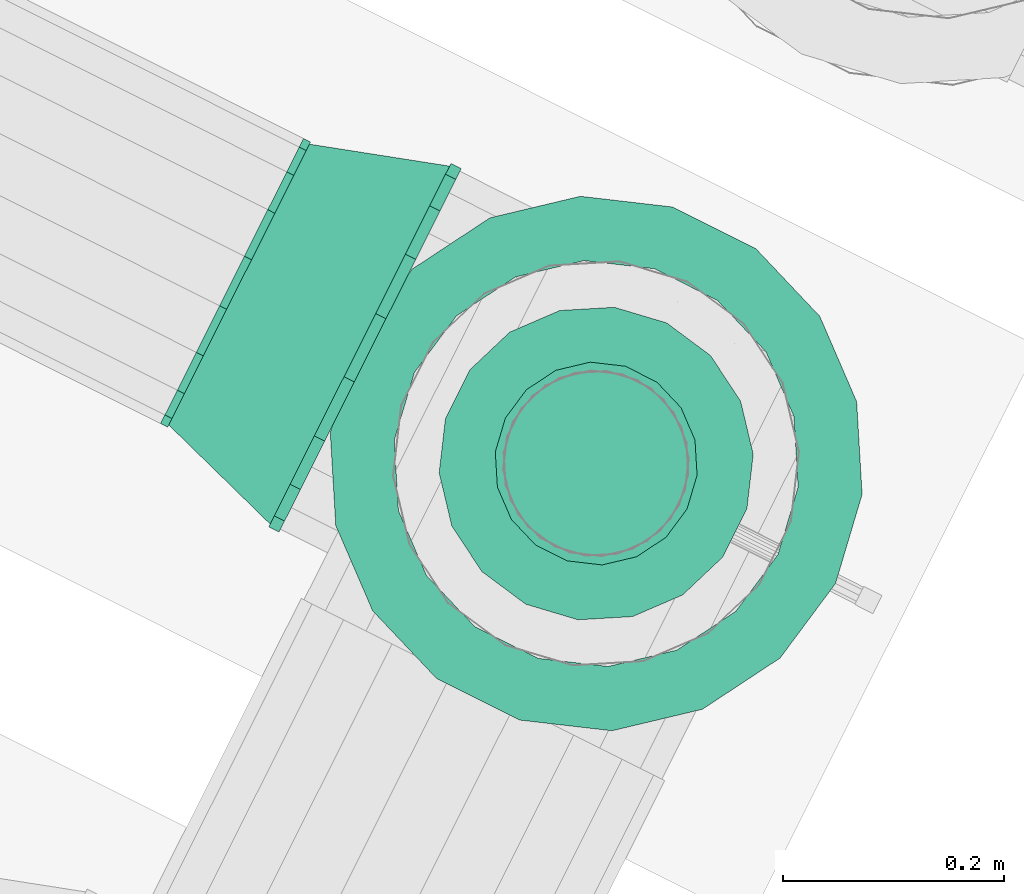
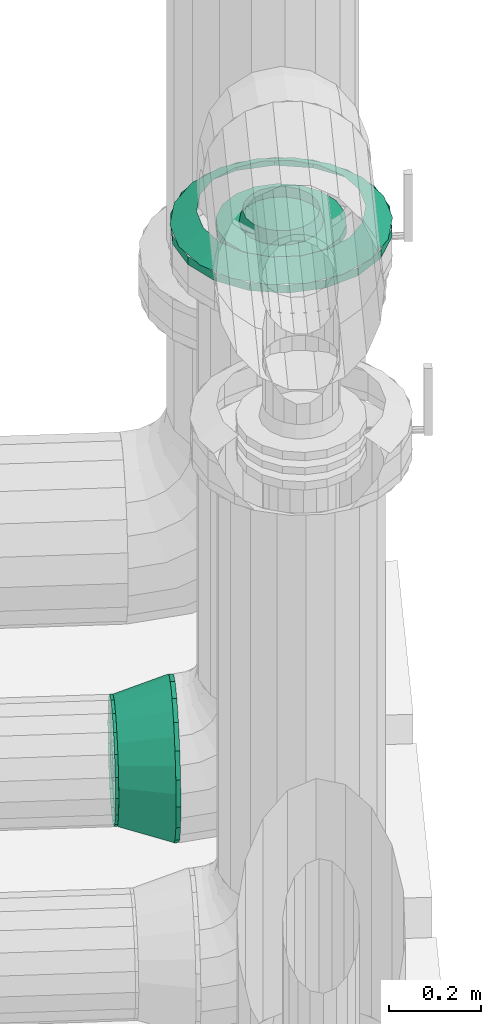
# One storey, part 134 of 152: 2 flow fittings.
"""IFC2X3 building model written with IfcOpenShell, lengths in metres."""

from ifc_helpers import new_model, si_unit, derived_unit, direction, frame, origin, place, context, subcontext, project, spatial, face_set, surface_model, source, transform, mapped, material, type_object, type_shapes, element, save


model = new_model("IFC2X3")

# Units and contexts
model_context = context("Model", 3, precision=5.2338327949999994e-05, world=origin(), true_north=direction((0.0, 1.0)))
body_context = subcontext(model_context, "Body", "Model", "MODEL_VIEW")
ifc_project = project(units=[si_unit("LENGTHUNIT", "METRE"), si_unit("AREAUNIT", "SQUARE_METRE"), si_unit("VOLUMEUNIT", "CUBIC_METRE"), si_unit("MASSUNIT", "GRAM", prefix="KILO"), si_unit("PLANEANGLEUNIT", "RADIAN"), derived_unit("THERMALTRANSMITTANCEUNIT", [(si_unit("MASSUNIT", "GRAM", prefix="KILO"), 1), (si_unit("THERMODYNAMICTEMPERATUREUNIT", "KELVIN"), -1), (si_unit("TIMEUNIT", "SECOND"), -3)])], contexts=[model_context])

# Site, building, storey
site_placement = place(None, frame((0.0, 0.0, 0.0), z_axis=(0.0, 0.0, 1.0), x_axis=(0.8939966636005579, -0.4480736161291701, 0.0)))
site = spatial("IfcSite", under=ifc_project, at=site_placement, Name="Default", CompositionType="ELEMENT")
building_placement = place(site_placement, origin())
building = spatial("IfcBuilding", under=site, at=building_placement, CompositionType="ELEMENT")
storey_placement = place(building_placement, frame((0.0, 0.0, 2.7499999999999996)))
storey = spatial("IfcBuildingStorey", under=building, at=storey_placement, Name="1. Obergeschoss", CompositionType="ELEMENT", Elevation=2.7499999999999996)

# Flow fittings
ifc_material = material(Name="IfcSurfaceStyle #9317")
distribution_element_type_1 = type_object("IfcDistributionElementType", Name="Übergangsstück 221517:Übergangsstück 221517", material=ifc_material)
shared_shape_1 = source(origin(), body_context, "Body", "SurfaceModel", [
    surface_model("IfcFaceBasedSurfaceModel", [(11.496814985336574, 7.243058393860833, 3.325154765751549), (11.496814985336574, 7.248133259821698, 3.3539357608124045), (11.486355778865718, 7.248133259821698, 3.3539357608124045), (11.486355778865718, 7.243058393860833, 3.3251547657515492), (11.496814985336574, 7.262745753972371, 3.379245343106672), (11.486355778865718, 7.262745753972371, 3.379245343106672), (11.496814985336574, 7.28513339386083, 3.39803080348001), (11.486355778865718, 7.28513339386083, 3.39803080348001), (11.496814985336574, 7.3125958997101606, 3.4080263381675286), (11.486355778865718, 7.3125958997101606, 3.4080263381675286), (11.496814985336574, 7.341820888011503, 3.408026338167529), (11.486355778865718, 7.341820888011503, 3.408026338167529), (11.496814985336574, 7.36928339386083, 3.3980308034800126), (11.486355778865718, 7.36928339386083, 3.3980308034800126), (11.496814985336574, 7.39167103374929, 3.379245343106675), (11.486355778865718, 7.39167103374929, 3.379245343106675), (11.496814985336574, 7.406283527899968, 3.353935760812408), (11.486355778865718, 7.406283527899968, 3.353935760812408), (11.496814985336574, 7.411358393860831, 3.325154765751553), (11.486355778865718, 7.411358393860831, 3.325154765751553), (11.496814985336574, 7.406283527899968, 3.296373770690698), (11.486355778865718, 7.406283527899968, 3.296373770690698), (11.496814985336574, 7.391671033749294, 3.2710641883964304), (11.486355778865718, 7.391671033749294, 3.2710641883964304), (11.496814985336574, 7.369283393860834, 3.2522787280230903), (11.486355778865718, 7.369283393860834, 3.2522787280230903), (11.496814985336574, 7.341820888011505, 3.2422831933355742), (11.486355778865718, 7.341820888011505, 3.2422831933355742), (11.496814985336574, 7.312595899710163, 3.2422831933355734), (11.486355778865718, 7.312595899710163, 3.2422831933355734), (11.496814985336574, 7.285133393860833, 3.2522787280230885), (11.486355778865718, 7.285133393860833, 3.2522787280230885), (11.496814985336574, 7.262745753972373, 3.2710641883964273), (11.486355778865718, 7.262745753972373, 3.2710641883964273), (11.496814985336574, 7.2481332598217, 3.296373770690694), (11.486355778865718, 7.2481332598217, 3.296373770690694), (11.496814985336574, 7.143058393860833, 3.3251547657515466), (11.496814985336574, 7.154163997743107, 3.388137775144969), (11.486355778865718, 7.154163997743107, 3.388137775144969), (11.486355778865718, 7.143058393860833, 3.325154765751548), (11.496814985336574, 7.18614130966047, 3.443524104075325), (11.486355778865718, 7.18614130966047, 3.443524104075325), (11.496814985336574, 7.2351333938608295, 3.484633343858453), (11.486355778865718, 7.2351333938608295, 3.484633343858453), (11.496814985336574, 7.295231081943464, 3.5065071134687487), (11.486355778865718, 7.295231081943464, 3.5065071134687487), (11.496814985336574, 7.359185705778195, 3.5065071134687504), (11.486355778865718, 7.359185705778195, 3.5065071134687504), (11.496814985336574, 7.41928339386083, 3.484633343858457), (11.486355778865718, 7.41928339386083, 3.484633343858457), (11.496814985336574, 7.468275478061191, 3.4435241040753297), (11.486355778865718, 7.468275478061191, 3.4435241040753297), (11.496814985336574, 7.500252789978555, 3.388137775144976), (11.486355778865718, 7.500252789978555, 3.388137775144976), (11.496814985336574, 7.5113583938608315, 3.3251547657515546), (11.486355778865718, 7.5113583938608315, 3.3251547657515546), (11.496814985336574, 7.500252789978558, 3.262171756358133), (11.486355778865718, 7.500252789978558, 3.262171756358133), (11.496814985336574, 7.468275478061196, 3.2067854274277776), (11.486355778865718, 7.468275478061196, 3.2067854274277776), (11.496814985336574, 7.419283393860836, 3.1656761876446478), (11.486355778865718, 7.419283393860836, 3.1656761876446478), (11.496814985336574, 7.359185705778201, 3.1438024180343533), (11.486355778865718, 7.359185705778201, 3.1438024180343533), (11.496814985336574, 7.295231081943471, 3.143802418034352), (11.486355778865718, 7.295231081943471, 3.143802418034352), (11.496814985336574, 7.235133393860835, 3.165676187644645), (11.486355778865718, 7.235133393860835, 3.165676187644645), (11.496814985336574, 7.186141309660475, 3.2067854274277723), (11.486355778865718, 7.186141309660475, 3.2067854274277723), (11.496814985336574, 7.15416399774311, 3.262171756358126), (11.486355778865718, 7.15416399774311, 3.262171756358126), (11.486355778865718, 7.327208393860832, 3.4093047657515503), (11.486355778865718, 7.355989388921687, 3.404229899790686), (11.363964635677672, 7.342411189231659, 3.366924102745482), (11.363964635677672, 7.3272083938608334, 3.3696047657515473), (11.486355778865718, 7.381298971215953, 3.3896174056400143), (11.363964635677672, 7.355780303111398, 3.359205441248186), (11.486355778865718, 7.400084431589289, 3.367229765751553), (11.363964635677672, 7.365703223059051, 3.3473797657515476), (11.486355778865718, 7.410079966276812, 3.3397672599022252), (11.363964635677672, 7.370983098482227, 3.332873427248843), (11.486355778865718, 7.410079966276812, 3.3105422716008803), (11.363964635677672, 7.370983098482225, 3.317436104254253), (11.486355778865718, 7.400084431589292, 3.2830797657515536), (11.363964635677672, 7.36570322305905, 3.3029297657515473), (11.486355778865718, 7.381298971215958, 3.26069212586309), (11.363964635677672, 7.355780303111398, 3.2911040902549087), (11.486355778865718, 7.35598938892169, 3.2460796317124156), (11.363964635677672, 7.342411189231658, 3.2833854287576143), (11.486355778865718, 7.327208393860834, 3.24100476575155), (11.363964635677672, 7.3272083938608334, 3.2807047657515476), (11.486355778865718, 7.298427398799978, 3.2460796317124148), (11.363964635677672, 7.312005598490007, 3.2833854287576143), (11.486355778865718, 7.27311781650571, 3.2606921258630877), (11.363964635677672, 7.298636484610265, 3.2911040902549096), (11.486355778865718, 7.254332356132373, 3.2830797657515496), (11.363964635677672, 7.288713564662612, 3.3029297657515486), (11.486355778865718, 7.244336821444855, 3.310542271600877), (11.363964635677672, 7.283433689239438, 3.317436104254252), (11.486355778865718, 7.244336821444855, 3.3397672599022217), (11.363964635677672, 7.2834336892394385, 3.3328734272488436), (11.486355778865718, 7.254332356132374, 3.3672297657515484), (11.363964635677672, 7.288713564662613, 3.347379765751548), (11.486355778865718, 7.273117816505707, 3.389617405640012), (11.363964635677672, 7.298636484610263, 3.3592054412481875), (11.486355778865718, 7.298427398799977, 3.404229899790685), (11.363964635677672, 7.312005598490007, 3.3669241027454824), (11.363964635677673, 7.282758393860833, 3.325154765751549), (11.363964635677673, 7.285439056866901, 3.3403575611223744), (11.356814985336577, 7.285439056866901, 3.3403575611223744), (11.356814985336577, 7.282758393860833, 3.325154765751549), (11.363964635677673, 7.293157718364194, 3.353726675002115), (11.356814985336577, 7.293157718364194, 3.353726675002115), (11.363964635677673, 7.304983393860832, 3.3636495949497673), (11.356814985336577, 7.304983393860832, 3.3636495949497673), (11.363964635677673, 7.319489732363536, 3.3689294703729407), (11.356814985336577, 7.319489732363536, 3.3689294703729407), (11.363964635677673, 7.334927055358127, 3.3689294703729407), (11.356814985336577, 7.334927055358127, 3.3689294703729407), (11.363964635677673, 7.349433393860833, 3.3636495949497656), (11.356814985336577, 7.349433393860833, 3.3636495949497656), (11.363964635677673, 7.3612590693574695, 3.3537266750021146), (11.356814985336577, 7.3612590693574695, 3.3537266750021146), (11.363964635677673, 7.368977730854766, 3.340357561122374), (11.356814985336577, 7.368977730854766, 3.340357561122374), (11.363964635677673, 7.371658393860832, 3.325154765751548), (11.356814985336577, 7.371658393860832, 3.325154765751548), (11.363964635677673, 7.368977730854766, 3.309951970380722), (11.356814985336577, 7.368977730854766, 3.309951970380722), (11.363964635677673, 7.3612590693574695, 3.296582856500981), (11.356814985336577, 7.3612590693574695, 3.296582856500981), (11.363964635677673, 7.349433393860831, 3.2866599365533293), (11.356814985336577, 7.349433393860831, 3.2866599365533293), (11.363964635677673, 7.3349270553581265, 3.2813800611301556), (11.356814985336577, 7.3349270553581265, 3.2813800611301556), (11.363964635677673, 7.319489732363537, 3.2813800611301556), (11.356814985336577, 7.319489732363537, 3.2813800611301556), (11.363964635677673, 7.304983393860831, 3.2866599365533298), (11.356814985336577, 7.304983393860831, 3.2866599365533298), (11.363964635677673, 7.293157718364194, 3.296582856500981), (11.356814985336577, 7.293157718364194, 3.296582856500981), (11.363964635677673, 7.2854390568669, 3.309951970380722), (11.356814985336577, 7.2854390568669, 3.309951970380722), (11.486355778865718, 7.32720839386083, 3.5093047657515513), (11.486355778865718, 7.39019140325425, 3.498199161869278), (11.363964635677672, 7.376613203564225, 3.460893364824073), (11.363964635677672, 7.327208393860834, 3.469604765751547), (11.486355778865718, 7.4455777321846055, 3.4662218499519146), (11.363964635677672, 7.4200590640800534, 3.435809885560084), (11.486355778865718, 7.486686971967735, 3.417229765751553), (11.363964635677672, 7.4523057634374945, 3.397379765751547), (11.486355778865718, 7.508560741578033, 3.35713207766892), (11.363964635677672, 7.469463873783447, 3.3502382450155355), (11.486355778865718, 7.508560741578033, 3.29317745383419), (11.363964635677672, 7.469463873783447, 3.300071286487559), (11.486355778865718, 7.486686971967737, 3.2330797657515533), (11.363964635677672, 7.452305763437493, 3.252929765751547), (11.486355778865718, 7.445577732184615, 3.184087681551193), (11.363964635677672, 7.420059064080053, 3.2144996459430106), (11.486355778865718, 7.390191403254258, 3.1521103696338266), (11.363964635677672, 7.376613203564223, 3.189416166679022), (11.486355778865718, 7.327208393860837, 3.141004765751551), (11.363964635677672, 7.327208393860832, 3.1807047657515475), (11.486355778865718, 7.264225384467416, 3.152110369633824), (11.363964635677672, 7.2778035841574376, 3.189416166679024), (11.486355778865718, 7.20883905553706, 3.1840876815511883), (11.363964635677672, 7.23435772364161, 3.214499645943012), (11.486355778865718, 7.16772981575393, 3.2330797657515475), (11.363964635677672, 7.202111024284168, 3.252929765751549), (11.486355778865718, 7.145856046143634, 3.2931774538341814), (11.363964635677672, 7.1849529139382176, 3.3000712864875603), (11.486355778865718, 7.145856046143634, 3.357132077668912), (11.363964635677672, 7.184952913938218, 3.3502382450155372), (11.486355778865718, 7.167729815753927, 3.4172297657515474), (11.363964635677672, 7.20211102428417, 3.3973797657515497), (11.486355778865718, 7.208839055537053, 3.4662218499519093), (11.363964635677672, 7.234357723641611, 3.4358098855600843), (11.486355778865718, 7.264225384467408, 3.498199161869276), (11.363964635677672, 7.277803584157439, 3.4608933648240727), (11.363964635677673, 7.182758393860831, 3.325154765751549), (11.363964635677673, 7.191469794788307, 3.374559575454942), (11.356814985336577, 7.191469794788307, 3.374559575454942), (11.356814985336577, 7.182758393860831, 3.325154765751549), (11.363964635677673, 7.216553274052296, 3.4180054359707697), (11.356814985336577, 7.216553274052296, 3.4180054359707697), (11.363964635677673, 7.254983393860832, 3.4502521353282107), (11.356814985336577, 7.254983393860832, 3.4502521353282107), (11.363964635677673, 7.302124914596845, 3.4674102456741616), (11.356814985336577, 7.302124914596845, 3.4674102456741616), (11.363964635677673, 7.352291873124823, 3.4674102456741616), (11.356814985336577, 7.352291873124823, 3.4674102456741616), (11.363964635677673, 7.399433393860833, 3.4502521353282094), (11.356814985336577, 7.399433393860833, 3.4502521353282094), (11.363964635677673, 7.43786351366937, 3.418005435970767), (11.356814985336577, 7.43786351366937, 3.418005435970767), (11.363964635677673, 7.462946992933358, 3.37455957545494), (11.356814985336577, 7.462946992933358, 3.37455957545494), (11.363964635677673, 7.471658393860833, 3.3251547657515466), (11.356814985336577, 7.471658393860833, 3.3251547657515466), (11.363964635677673, 7.462946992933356, 3.2757499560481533), (11.356814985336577, 7.462946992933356, 3.2757499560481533), (11.363964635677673, 7.4378635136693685, 3.232304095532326), (11.356814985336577, 7.4378635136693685, 3.232304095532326), (11.363964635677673, 7.399433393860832, 3.2000573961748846), (11.356814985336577, 7.399433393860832, 3.2000573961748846), (11.363964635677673, 7.35229187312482, 3.1828992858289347), (11.356814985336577, 7.35229187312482, 3.1828992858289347), (11.363964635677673, 7.3021249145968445, 3.1828992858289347), (11.356814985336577, 7.3021249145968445, 3.1828992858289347), (11.363964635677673, 7.25498339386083, 3.2000573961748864), (11.356814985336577, 7.25498339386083, 3.2000573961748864), (11.363964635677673, 7.216553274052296, 3.232304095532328), (11.356814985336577, 7.216553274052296, 3.232304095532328), (11.363964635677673, 7.191469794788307, 3.275749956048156), (11.356814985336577, 7.191469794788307, 3.275749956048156)], [face_set([[[0, 1, 2, 3]], [[1, 4, 5, 2]], [[4, 6, 7, 5]], [[6, 8, 9, 7]], [[8, 10, 11, 9]], [[10, 12, 13, 11]], [[12, 14, 15, 13]], [[14, 16, 17, 15]], [[16, 18, 19, 17]], [[18, 20, 21, 19]], [[20, 22, 23, 21]], [[22, 24, 25, 23]], [[24, 26, 27, 25]], [[26, 28, 29, 27]], [[28, 30, 31, 29]], [[30, 32, 33, 31]], [[32, 34, 35, 33]], [[34, 0, 3, 35]], [[36, 37, 38, 39]], [[37, 40, 41, 38]], [[40, 42, 43, 41]], [[42, 44, 45, 43]], [[44, 46, 47, 45]], [[46, 48, 49, 47]], [[48, 50, 51, 49]], [[50, 52, 53, 51]], [[52, 54, 55, 53]], [[54, 56, 57, 55]], [[56, 58, 59, 57]], [[58, 60, 61, 59]], [[60, 62, 63, 61]], [[62, 64, 65, 63]], [[64, 66, 67, 65]], [[66, 68, 69, 67]], [[68, 70, 71, 69]], [[70, 36, 39, 71]], [[72, 73, 74, 75]], [[73, 76, 77, 74]], [[76, 78, 79, 77]], [[78, 80, 81, 79]], [[80, 82, 83, 81]], [[82, 84, 85, 83]], [[84, 86, 87, 85]], [[86, 88, 89, 87]], [[88, 90, 91, 89]], [[90, 92, 93, 91]], [[92, 94, 95, 93]], [[94, 96, 97, 95]], [[96, 98, 99, 97]], [[98, 100, 101, 99]], [[100, 102, 103, 101]], [[102, 104, 105, 103]], [[104, 106, 107, 105]], [[106, 72, 75, 107]], [[108, 109, 110, 111]], [[109, 112, 113, 110]], [[112, 114, 115, 113]], [[114, 116, 117, 115]], [[116, 118, 119, 117]], [[118, 120, 121, 119]], [[120, 122, 123, 121]], [[122, 124, 125, 123]], [[124, 126, 127, 125]], [[126, 128, 129, 127]], [[128, 130, 131, 129]], [[130, 132, 133, 131]], [[132, 134, 135, 133]], [[134, 136, 137, 135]], [[136, 138, 139, 137]], [[138, 140, 141, 139]], [[140, 142, 143, 141]], [[142, 108, 111, 143]], [[144, 145, 146, 147]], [[145, 148, 149, 146]], [[148, 150, 151, 149]], [[150, 152, 153, 151]], [[152, 154, 155, 153]], [[154, 156, 157, 155]], [[156, 158, 159, 157]], [[158, 160, 161, 159]], [[160, 162, 163, 161]], [[162, 164, 165, 163]], [[164, 166, 167, 165]], [[166, 168, 169, 167]], [[168, 170, 171, 169]], [[170, 172, 173, 171]], [[172, 174, 175, 173]], [[174, 176, 177, 175]], [[176, 178, 179, 177]], [[178, 144, 147, 179]], [[180, 181, 182, 183]], [[181, 184, 185, 182]], [[184, 186, 187, 185]], [[186, 188, 189, 187]], [[188, 190, 191, 189]], [[190, 192, 193, 191]], [[192, 194, 195, 193]], [[194, 196, 197, 195]], [[196, 198, 199, 197]], [[198, 200, 201, 199]], [[200, 202, 203, 201]], [[202, 204, 205, 203]], [[204, 206, 207, 205]], [[206, 208, 209, 207]], [[208, 210, 211, 209]], [[210, 212, 213, 211]], [[212, 214, 215, 213]], [[214, 180, 183, 215]]])]),
])
type_shapes(distribution_element_type_1, [shared_shape_1])
flow_fitting_1_placement = place(storey_placement, frame((0.0, 0.0, -2.7499999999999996)))
element("IfcFlowFitting", 1, at=flow_fitting_1_placement, inside=storey, type_object=distribution_element_type_1, material=ifc_material, Name="Übergangsstück", ObjectType="Übergangsstück", context=body_context, shape_type="MappedRepresentation", body=[
    mapped(shared_shape_1, transform((0.0, 0.0, 0.0), scale=1.0)),
])
distribution_element_type_2 = type_object("IfcDistributionElementType", Name="Flansch 221540:Flansch 221540", material=ifc_material)
shared_shape_2 = source(origin(), body_context, "Body", "SurfaceModel", [
    surface_model("IfcFaceBasedSurfaceModel", [(11.725814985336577, 7.4697083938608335, 4.718303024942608), (11.677077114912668, 7.461114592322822, 4.718303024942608), (11.677077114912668, 7.461114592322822, 4.740303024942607), (11.725814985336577, 7.4697083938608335, 4.740303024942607), (11.634217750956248, 7.436369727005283, 4.718303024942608), (11.634217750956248, 7.436369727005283, 4.740303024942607), (11.602406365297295, 7.398458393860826, 4.718303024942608), (11.602406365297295, 7.398458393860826, 4.740303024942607), (11.585479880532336, 7.351953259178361, 4.718303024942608), (11.585479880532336, 7.351953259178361, 4.740303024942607), (11.585479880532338, 7.302463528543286, 4.718303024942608), (11.585479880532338, 7.302463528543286, 4.740303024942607), (11.602406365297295, 7.255958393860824, 4.718303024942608), (11.602406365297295, 7.255958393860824, 4.740303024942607), (11.634217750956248, 7.218047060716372, 4.718303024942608), (11.634217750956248, 7.218047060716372, 4.740303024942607), (11.677077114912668, 7.193302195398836, 4.718303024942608), (11.677077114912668, 7.193302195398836, 4.740303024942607), (11.725814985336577, 7.1847083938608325, 4.718303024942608), (11.725814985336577, 7.1847083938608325, 4.740303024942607), (11.774552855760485, 7.19330219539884, 4.718303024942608), (11.774552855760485, 7.19330219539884, 4.740303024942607), (11.817412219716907, 7.2180470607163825, 4.718303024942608), (11.817412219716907, 7.2180470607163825, 4.740303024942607), (11.849223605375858, 7.255958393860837, 4.718303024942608), (11.849223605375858, 7.255958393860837, 4.740303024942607), (11.866150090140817, 7.302463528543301, 4.718303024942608), (11.866150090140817, 7.302463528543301, 4.740303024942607), (11.866150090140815, 7.351953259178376, 4.718303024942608), (11.866150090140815, 7.351953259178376, 4.740303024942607), (11.849223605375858, 7.398458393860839, 4.718303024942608), (11.849223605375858, 7.398458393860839, 4.740303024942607), (11.817412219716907, 7.436369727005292, 4.718303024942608), (11.817412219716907, 7.436369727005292, 4.740303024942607), (11.774552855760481, 7.4611145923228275, 4.718303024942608), (11.774552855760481, 7.4611145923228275, 4.740303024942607), (11.725814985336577, 7.327208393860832, 4.740303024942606), (11.633814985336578, 7.327208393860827, 4.740303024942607), (11.639363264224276, 7.2957425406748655, 4.740303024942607), (11.646739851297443, 7.298427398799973, 4.773303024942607), (11.641664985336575, 7.327208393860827, 4.773303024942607), (11.655338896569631, 7.268071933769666, 4.740303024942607), (11.661352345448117, 7.273117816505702, 4.773303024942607), (11.679814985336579, 7.24753405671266, 4.740303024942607), (11.683739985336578, 7.254332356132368, 4.773303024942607), (11.709839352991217, 7.236606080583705, 4.740303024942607), (11.711202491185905, 7.244336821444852, 4.773303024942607), (11.741790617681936, 7.236606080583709, 4.740303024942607), (11.740427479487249, 7.244336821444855, 4.773303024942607), (11.77181498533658, 7.247534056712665, 4.740303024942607), (11.767889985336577, 7.254332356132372, 4.773303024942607), (11.79629107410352, 7.268071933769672, 4.740303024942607), (11.790277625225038, 7.273117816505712, 4.773303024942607), (11.81226670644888, 7.295742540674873, 4.740303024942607), (11.80489011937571, 7.298427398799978, 4.773303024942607), (11.817814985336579, 7.327208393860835, 4.740303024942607), (11.809964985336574, 7.327208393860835, 4.773303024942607), (11.81226670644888, 7.358674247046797, 4.740303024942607), (11.804890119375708, 7.35598938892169, 4.773303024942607), (11.796291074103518, 7.386344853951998, 4.740303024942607), (11.790277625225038, 7.3812989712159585, 4.773303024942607), (11.771814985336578, 7.406882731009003, 4.740303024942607), (11.767889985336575, 7.400084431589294, 4.773303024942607), (11.741790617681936, 7.417810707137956, 4.740303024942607), (11.740427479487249, 7.410079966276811, 4.773303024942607), (11.709839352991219, 7.417810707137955, 4.740303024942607), (11.711202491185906, 7.410079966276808, 4.773303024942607), (11.679814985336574, 7.406882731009, 4.740303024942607), (11.683739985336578, 7.40008443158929, 4.773303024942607), (11.655338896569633, 7.386344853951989, 4.740303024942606), (11.661352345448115, 7.381298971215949, 4.7733030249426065), (11.639363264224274, 7.358674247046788, 4.740303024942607), (11.646739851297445, 7.355989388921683, 4.773303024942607), (11.725814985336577, 7.569708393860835, 4.718303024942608), (11.6428751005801, 7.555083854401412, 4.718303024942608), (11.6428751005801, 7.555083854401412, 4.740303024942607), (11.725814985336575, 7.569708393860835, 4.740303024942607), (11.569938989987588, 7.512974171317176, 4.718303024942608), (11.569938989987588, 7.512974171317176, 4.740303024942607), (11.515803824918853, 7.448458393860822, 4.718303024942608), (11.515803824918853, 7.448458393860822, 4.740303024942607), (11.486999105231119, 7.369318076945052, 4.718303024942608), (11.486999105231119, 7.369318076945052, 4.740303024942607), (11.486999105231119, 7.285098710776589, 4.718303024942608), (11.486999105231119, 7.285098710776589, 4.740303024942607), (11.515803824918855, 7.205958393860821, 4.718303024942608), (11.515803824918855, 7.205958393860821, 4.740303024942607), (11.569938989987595, 7.141442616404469, 4.718303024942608), (11.569938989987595, 7.141442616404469, 4.740303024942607), (11.6428751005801, 7.099332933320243, 4.718303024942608), (11.6428751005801, 7.099332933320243, 4.740303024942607), (11.725814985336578, 7.084708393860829, 4.718303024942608), (11.725814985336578, 7.084708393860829, 4.740303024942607), (11.808754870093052, 7.09933293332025, 4.718303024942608), (11.808754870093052, 7.09933293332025, 4.740303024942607), (11.881690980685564, 7.141442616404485, 4.718303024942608), (11.881690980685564, 7.141442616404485, 4.740303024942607), (11.935826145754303, 7.205958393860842, 4.718303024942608), (11.935826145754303, 7.205958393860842, 4.740303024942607), (11.964630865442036, 7.285098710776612, 4.718303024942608), (11.964630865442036, 7.285098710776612, 4.740303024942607), (11.964630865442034, 7.369318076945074, 4.718303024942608), (11.964630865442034, 7.369318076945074, 4.740303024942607), (11.9358261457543, 7.448458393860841, 4.718303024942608), (11.9358261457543, 7.448458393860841, 4.740303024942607), (11.881690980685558, 7.512974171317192, 4.718303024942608), (11.881690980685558, 7.512974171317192, 4.740303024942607), (11.80875487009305, 7.555083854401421, 4.718303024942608), (11.80875487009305, 7.555083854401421, 4.740303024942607), (11.483314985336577, 7.327208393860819, 4.740303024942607), (11.497939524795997, 7.244268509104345, 4.740303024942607), (11.552770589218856, 7.2642253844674, 4.773303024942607), (11.54166498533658, 7.327208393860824, 4.773303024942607), (11.540049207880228, 7.171332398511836, 4.740303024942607), (11.58474790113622, 7.208839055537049, 4.773303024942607), (11.604564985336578, 7.117197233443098, 4.740303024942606), (11.633739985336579, 7.167729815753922, 4.7733030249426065), (11.683705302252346, 7.088392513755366, 4.740303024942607), (11.69383767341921, 7.145856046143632, 4.773303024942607), (11.767924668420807, 7.0883925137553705, 4.740303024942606), (11.757792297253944, 7.145856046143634, 4.7733030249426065), (11.847064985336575, 7.117197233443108, 4.740303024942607), (11.817889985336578, 7.167729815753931, 4.773303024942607), (11.91158076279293, 7.1713323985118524, 4.740303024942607), (11.866882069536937, 7.208839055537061, 4.773303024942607), (11.953690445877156, 7.244268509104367, 4.740303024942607), (11.898859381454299, 7.264225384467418, 4.773303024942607), (11.968314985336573, 7.327208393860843, 4.740303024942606), (11.909964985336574, 7.32720839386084, 4.7733030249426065), (11.953690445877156, 7.410148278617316, 4.740303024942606), (11.898859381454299, 7.390191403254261, 4.773303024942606), (11.91158076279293, 7.483084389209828, 4.740303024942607), (11.866882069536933, 7.445577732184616, 4.773303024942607), (11.847064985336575, 7.537219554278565, 4.740303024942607), (11.817889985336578, 7.4866869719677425, 4.773303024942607), (11.767924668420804, 7.566024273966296, 4.740303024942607), (11.75779229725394, 7.508560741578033, 4.773303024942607), (11.683705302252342, 7.566024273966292, 4.740303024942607), (11.693837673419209, 7.508560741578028, 4.773303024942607), (11.604564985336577, 7.537219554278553, 4.740303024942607), (11.633739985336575, 7.486686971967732, 4.773303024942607), (11.540049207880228, 7.48308438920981, 4.740303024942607), (11.584747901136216, 7.445577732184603, 4.773303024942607), (11.497939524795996, 7.410148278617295, 4.740303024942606), (11.552770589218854, 7.390191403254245, 4.7733030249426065)], [face_set([[[0, 1, 2, 3]], [[1, 4, 5, 2]], [[4, 6, 7, 5]], [[6, 8, 9, 7]], [[8, 10, 11, 9]], [[10, 12, 13, 11]], [[12, 14, 15, 13]], [[14, 16, 17, 15]], [[16, 18, 19, 17]], [[18, 20, 21, 19]], [[20, 22, 23, 21]], [[22, 24, 25, 23]], [[24, 26, 27, 25]], [[26, 28, 29, 27]], [[28, 30, 31, 29]], [[30, 32, 33, 31]], [[32, 34, 35, 33]], [[34, 0, 3, 35]], [[36, 35, 3]], [[36, 33, 35]], [[36, 31, 33]], [[36, 29, 31]], [[36, 27, 29]], [[36, 25, 27]], [[36, 23, 25]], [[36, 21, 23]], [[36, 19, 21]], [[36, 17, 19]], [[36, 15, 17]], [[36, 13, 15]], [[36, 11, 13]], [[36, 9, 11]], [[36, 7, 9]], [[36, 5, 7]], [[36, 2, 5]], [[36, 3, 2]], [[37, 38, 39, 40]], [[38, 41, 42, 39]], [[41, 43, 44, 42]], [[43, 45, 46, 44]], [[45, 47, 48, 46]], [[47, 49, 50, 48]], [[49, 51, 52, 50]], [[51, 53, 54, 52]], [[53, 55, 56, 54]], [[55, 57, 58, 56]], [[57, 59, 60, 58]], [[59, 61, 62, 60]], [[61, 63, 64, 62]], [[63, 65, 66, 64]], [[65, 67, 68, 66]], [[67, 69, 70, 68]], [[69, 71, 72, 70]], [[71, 37, 40, 72]], [[73, 74, 75, 76]], [[74, 77, 78, 75]], [[77, 79, 80, 78]], [[79, 81, 82, 80]], [[81, 83, 84, 82]], [[83, 85, 86, 84]], [[85, 87, 88, 86]], [[87, 89, 90, 88]], [[89, 91, 92, 90]], [[91, 93, 94, 92]], [[93, 95, 96, 94]], [[95, 97, 98, 96]], [[97, 99, 100, 98]], [[99, 101, 102, 100]], [[101, 103, 104, 102]], [[103, 105, 106, 104]], [[105, 107, 108, 106]], [[107, 73, 76, 108]], [[109, 110, 111, 112]], [[110, 113, 114, 111]], [[113, 115, 116, 114]], [[115, 117, 118, 116]], [[117, 119, 120, 118]], [[119, 121, 122, 120]], [[121, 123, 124, 122]], [[123, 125, 126, 124]], [[125, 127, 128, 126]], [[127, 129, 130, 128]], [[129, 131, 132, 130]], [[131, 133, 134, 132]], [[133, 135, 136, 134]], [[135, 137, 138, 136]], [[137, 139, 140, 138]], [[139, 141, 142, 140]], [[141, 143, 144, 142]], [[143, 109, 112, 144]]])]),
])
type_shapes(distribution_element_type_2, [shared_shape_2])
flow_fitting_2_placement = place(storey_placement, frame((0.0, 0.0, -2.7499999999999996)))
element("IfcFlowFitting", 2, at=flow_fitting_2_placement, inside=storey, type_object=distribution_element_type_2, material=ifc_material, Name="Flansch", ObjectType="Flansch", context=body_context, shape_type="MappedRepresentation", body=[
    mapped(shared_shape_2, transform((0.0, 0.0, 0.0), scale=1.0)),
])

save(model, "model.ifc")
